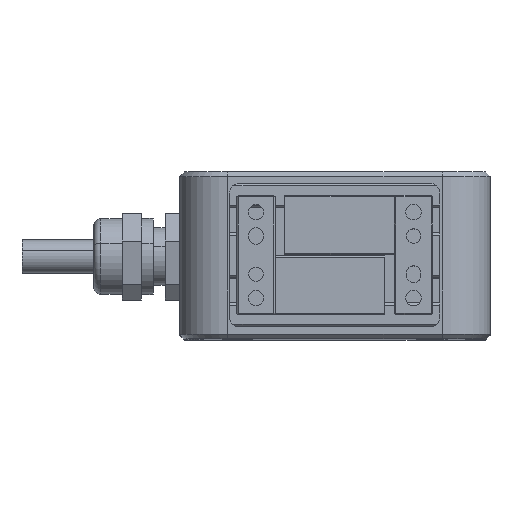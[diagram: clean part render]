
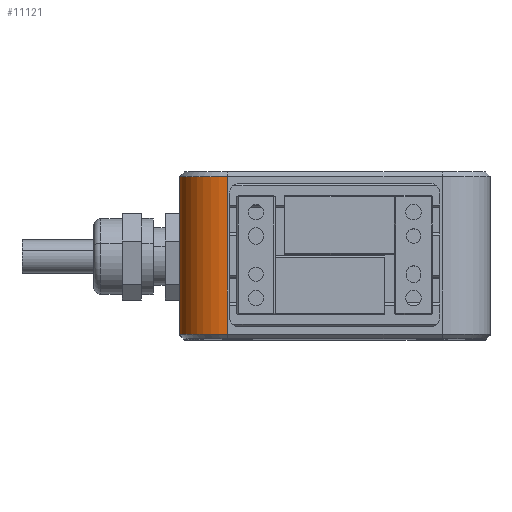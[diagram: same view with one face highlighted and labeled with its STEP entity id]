
A CAD part, top view. The second image highlights one B-rep face of the part: STEP entity #11121.
In plain terms, the highlighted cylindrical face has radius 10 mm (diameter 20 mm), a partial arc.
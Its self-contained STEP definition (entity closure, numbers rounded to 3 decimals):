
#186 = LINE ( 'NONE', #10383, #6924 ) ;
#519 = FACE_OUTER_BOUND ( 'NONE', #18972, .T. ) ;
#1397 = EDGE_CURVE ( 'NONE', #5059, #9585, #1419, .T. ) ;
#1419 = LINE ( 'NONE', #10479, #21916 ) ;
#2352 = ORIENTED_EDGE ( 'NONE', *, *, #18667, .T. ) ;
#2789 = AXIS2_PLACEMENT_3D ( 'NONE', #3738, #17378, #19146 ) ;
#3470 = EDGE_CURVE ( 'NONE', #5059, #21381, #15544, .T. ) ;
#3738 = CARTESIAN_POINT ( 'NONE',  ( -103.038, 33.753, 73.2 ) ) ;
#3856 = AXIS2_PLACEMENT_3D ( 'NONE', #7685, #4171, #16320 ) ;
#4171 = DIRECTION ( 'NONE',  ( 0., -1., 0. ) ) ;
#4639 = AXIS2_PLACEMENT_3D ( 'NONE', #15552, #5250, #7150 ) ;
#5059 = VERTEX_POINT ( 'NONE', #14161 ) ;
#5066 = ORIENTED_EDGE ( 'NONE', *, *, #1397, .F. ) ;
#5250 = DIRECTION ( 'NONE',  ( 0., 1., 0. ) ) ;
#6420 = ORIENTED_EDGE ( 'NONE', *, *, #3470, .T. ) ;
#6647 = CIRCLE ( 'NONE', #3856, 10. ) ;
#6924 = VECTOR ( 'NONE', #15422, 1000. ) ;
#7150 = DIRECTION ( 'NONE',  ( -1., 0., 0. ) ) ;
#7685 = CARTESIAN_POINT ( 'NONE',  ( -103.038, 32.753, 73.2 ) ) ;
#8260 = VERTEX_POINT ( 'NONE', #8869 ) ;
#8869 = CARTESIAN_POINT ( 'NONE',  ( -103.038, 32.753, 83.2 ) ) ;
#9585 = VERTEX_POINT ( 'NONE', #14763 ) ;
#10383 = CARTESIAN_POINT ( 'NONE',  ( -103.038, 33.753, 83.2 ) ) ;
#10479 = CARTESIAN_POINT ( 'NONE',  ( -113.038, 33.753, 73.2 ) ) ;
#11121 = ADVANCED_FACE ( 'NONE', ( #519 ), #18619, .T. ) ;
#12219 = DIRECTION ( 'NONE',  ( 0., 1., 0. ) ) ;
#13225 = EDGE_CURVE ( 'NONE', #8260, #21381, #186, .T. ) ;
#14161 = CARTESIAN_POINT ( 'NONE',  ( -113.038, -0.247, 73.2 ) ) ;
#14357 = ORIENTED_EDGE ( 'NONE', *, *, #13225, .F. ) ;
#14763 = CARTESIAN_POINT ( 'NONE',  ( -113.038, 32.753, 73.2 ) ) ;
#15422 = DIRECTION ( 'NONE',  ( 0., -1., 0. ) ) ;
#15544 = CIRCLE ( 'NONE', #4639, 10. ) ;
#15552 = CARTESIAN_POINT ( 'NONE',  ( -103.038, -0.247, 73.2 ) ) ;
#16320 = DIRECTION ( 'NONE',  ( -1., 0., 0. ) ) ;
#17378 = DIRECTION ( 'NONE',  ( 0., -1., 0. ) ) ;
#18619 = CYLINDRICAL_SURFACE ( 'NONE', #2789, 10. ) ;
#18667 = EDGE_CURVE ( 'NONE', #8260, #9585, #6647, .T. ) ;
#18972 = EDGE_LOOP ( 'NONE', ( #5066, #6420, #14357, #2352 ) ) ;
#19146 = DIRECTION ( 'NONE',  ( 1., 0., 0. ) ) ;
#21381 = VERTEX_POINT ( 'NONE', #22250 ) ;
#21916 = VECTOR ( 'NONE', #12219, 1000. ) ;
#22250 = CARTESIAN_POINT ( 'NONE',  ( -103.038, -0.247, 83.2 ) ) ;
